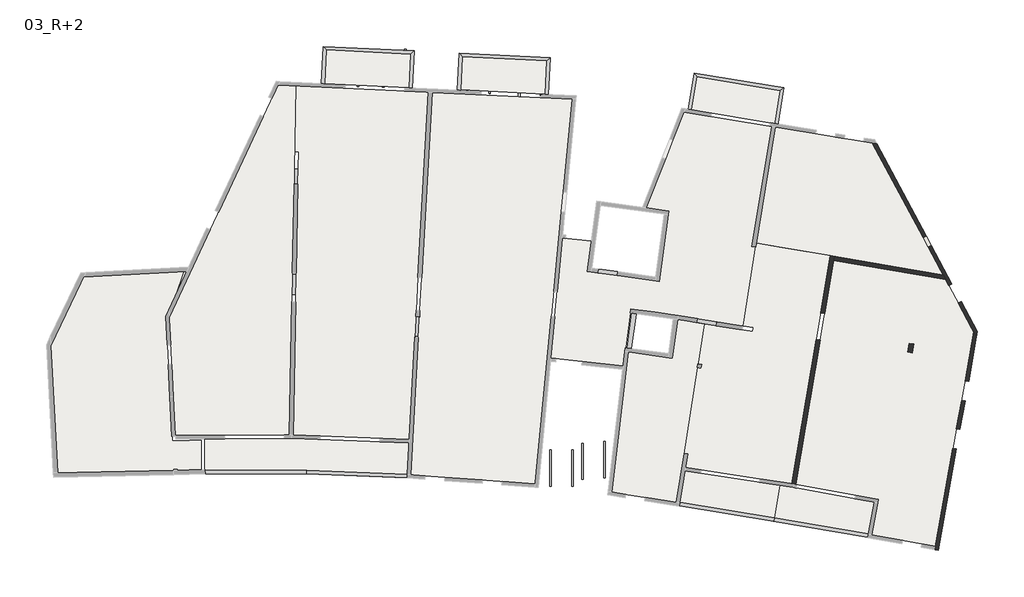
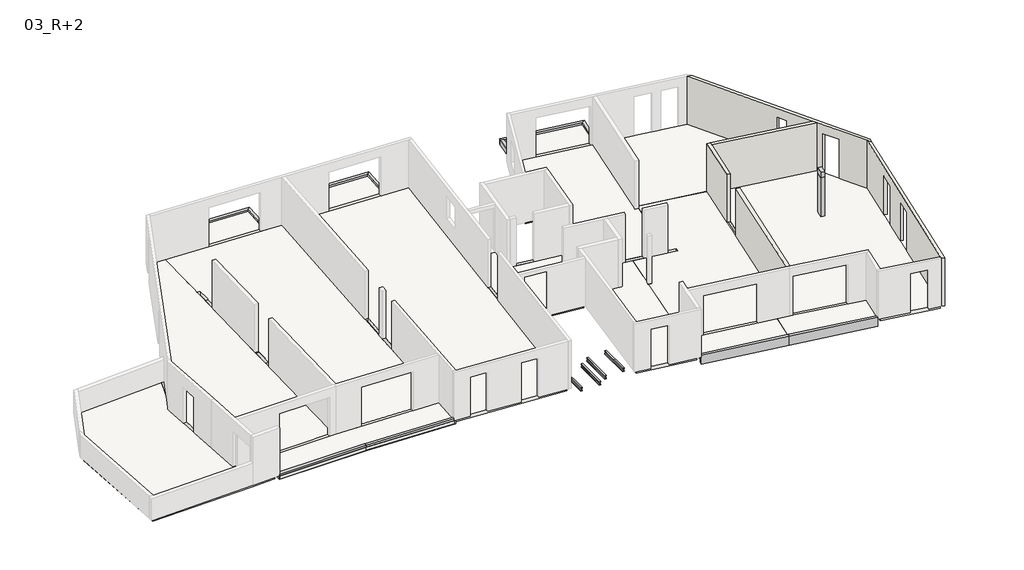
# One storey, part 2 of 2: 20 beams, 15 slabs, 12 proxies, 5 walls, 1 column.
"""IFC4 building model written with IfcOpenShell, lengths in millimetres."""

import ifcopenshell
import ifcopenshell.guid

model = None  # the IFC model being written
_history = None  # IfcOwnerHistory: only IFC2X3 demands one
_inside = {}  # id of a spatial element -> (the spatial element, [elements in it])
_under = {}  # id of a project, library or spatial element -> (it, [spatial elements below it])
_declared = {}  # id of a project -> (the project, [libraries it declares])
_typed = {}  # id of a type object -> (the type object, [elements of that type])
_made_of = {}  # id of a material, layer set ... -> (it, [elements and type objects made of it])


def new_model(schema):
    """Start an empty IFC model of exactly this schema.

    Asked for "IFC4X3", IfcOpenShell would pick the latest addendum, in which some entities
    have other attributes; the version numbers below select the first issue.
    IFC2X3 requires an IfcOwnerHistory on every rooted entity: one is made here for all.
    """
    global model, _history
    if schema == "IFC4X3":
        model = ifcopenshell.file(schema_version=(4, 3, 0, 0))
    else:
        model = ifcopenshell.file(schema=schema)
    _inside.clear()
    _under.clear()
    _declared.clear()
    _typed.clear()
    _made_of.clear()
    _history = None
    if model.schema == "IFC2X3":
        org = make("IfcOrganization", Name="unknown")
        user = make(
            "IfcPersonAndOrganization",
            ThePerson=make("IfcPerson", FamilyName="unknown"),
            TheOrganization=org,
        )
        app = make(
            "IfcApplication",
            ApplicationDeveloper=org,
            Version="unknown",
            ApplicationFullName="unknown",
            ApplicationIdentifier="unknown",
        )
        _history = make(
            "IfcOwnerHistory",
            OwningUser=user,
            OwningApplication=app,
            ChangeAction="ADDED",
            CreationDate=0,
        )
    return model


def make(cls, **values):
    """One entity of the class cls with the attributes given. An attribute that is None is left unset."""
    return model.create_entity(
        cls, **{name: value for name, value in values.items() if value is not None}
    )


def rooted(cls, **values):
    """An entity with a GlobalId (a new one), such as an element, a storey or a relation."""
    return make(cls, GlobalId=ifcopenshell.guid.new(), OwnerHistory=_history, **values)


def si_unit(unit_type, name, prefix=None):
    """IfcSIUnit, for example si_unit("LENGTHUNIT", "METRE", prefix="MILLI")."""
    return make("IfcSIUnit", UnitType=unit_type, Prefix=prefix, Name=name)


def assignment(units):
    """IfcUnitAssignment: the units of a project."""
    return None if units is None else make("IfcUnitAssignment", Units=units)


def point(xyz):
    """IfcCartesianPoint."""
    return None if xyz is None else make("IfcCartesianPoint", Coordinates=xyz)


def direction(xyz):
    """IfcDirection."""
    return None if xyz is None else make("IfcDirection", DirectionRatios=xyz)


def frame(location, z_axis=None, x_axis=None):
    """IfcAxis2Placement3D, a coordinate frame: its origin and axes. An axis left out is left unset."""
    return make(
        "IfcAxis2Placement3D",
        Location=point(location),
        Axis=direction(z_axis),
        RefDirection=direction(x_axis),
    )


def origin():
    """The frame at (0, 0, 0) with its axes left unset."""
    return frame((0.0, 0.0, 0.0))


def place(relative_to, where):
    """IfcLocalPlacement: puts the frame where relative to a parent placement (None: the world)."""
    return make(
        "IfcLocalPlacement", PlacementRelTo=relative_to, RelativePlacement=where
    )


def context(
    kind, dimensions, precision=None, world=None, true_north=None, identifier=None
):
    """IfcGeometricRepresentationContext, for example the 3D "Model" context."""
    return make(
        "IfcGeometricRepresentationContext",
        ContextIdentifier=identifier,
        ContextType=kind,
        CoordinateSpaceDimension=dimensions,
        Precision=precision,
        WorldCoordinateSystem=world,
        TrueNorth=true_north,
    )


def project(units=None, contexts=None):
    """IfcProject with its units and contexts."""
    return rooted(
        "IfcProject",
        Name="project",
        RepresentationContexts=contexts,
        UnitsInContext=assignment(units),
    )


def spatial(cls, under=None, at=None, **own):
    """A site, building, storey or space (cls), placed at a placement, below another one or the project."""
    s = rooted(cls, ObjectPlacement=at, **own)
    if under is not None:
        _under.setdefault(under.id(), (under, []))[1].append(s)
    return s


def polyline(points):
    """IfcPolyline through the points."""
    return make("IfcPolyline", Points=[point(p) for p in points])


def outline(outer, holes=None, kind="AREA"):
    """IfcArbitraryClosedProfileDef: a profile drawn as a closed curve; with holes, ...WithVoids."""
    if holes is None:
        return make("IfcArbitraryClosedProfileDef", ProfileType=kind, OuterCurve=outer)
    return make(
        "IfcArbitraryProfileDefWithVoids",
        ProfileType=kind,
        OuterCurve=outer,
        InnerCurves=holes,
    )


def extrude(swept, where, along, depth):
    """IfcExtrudedAreaSolid: the profile swept, set in the frame where, extruded along a direction by depth."""
    return make(
        "IfcExtrudedAreaSolid",
        SweptArea=swept,
        Position=where,
        ExtrudedDirection=direction(along),
        Depth=depth,
    )


def faces_of(points, faces, orient=None, outer=None):
    """IfcFace entities. A face is a list of loops; a loop is a list of indices into points, from 0.

    orient and outer hold one flag for each loop. By default every Orientation is true, the
    first loop of a face is its IfcFaceOuterBound and the others are IfcFaceBound.
    """
    made = []
    for i, loops in enumerate(faces):
        bounds = []
        for j, loop in enumerate(loops):
            is_outer = j == 0 if outer is None else outer[i][j]
            bounds.append(
                make(
                    "IfcFaceOuterBound" if is_outer else "IfcFaceBound",
                    Bound=make("IfcPolyLoop", Polygon=[points[k] for k in loop]),
                    Orientation=True if orient is None else orient[i][j],
                )
            )
        made.append(make("IfcFace", Bounds=bounds))
    return made


def faceted_brep(points, faces, orient=None, outer=None, voids=None):
    """IfcFacetedBrep: a solid bounded by flat faces; with voids (closed shells), ...WithVoids."""
    shared = [point(p) for p in points]
    hull = make("IfcClosedShell", CfsFaces=faces_of(shared, faces, orient, outer))
    if voids is None:
        return make("IfcFacetedBrep", Outer=hull)
    return make(
        "IfcFacetedBrepWithVoids",
        Outer=hull,
        Voids=[
            make(cls, CfsFaces=faces_of(shared, fs, o, b)) for cls, fs, o, b in voids
        ],
    )


def shape(context_of_items, identifier, shape_type, items):
    """IfcShapeRepresentation: the items that make up one representation, for example the "Body"."""
    return make(
        "IfcShapeRepresentation",
        ContextOfItems=context_of_items,
        RepresentationIdentifier=identifier,
        RepresentationType=shape_type,
        Items=items,
    )


def source(mapping_origin, context_of_items, identifier, shape_type, items):
    """IfcRepresentationMap: a shape defined once, which mapped items show again and again."""
    return make(
        "IfcRepresentationMap",
        MappingOrigin=mapping_origin,
        MappedRepresentation=shape(context_of_items, identifier, shape_type, items),
    )


def transform(
    local_origin,
    x_axis=None,
    y_axis=None,
    z_axis=None,
    scale=None,
    scale2=None,
    scale3=None,
    uniform=True,
):
    """IfcCartesianTransformationOperator3D, or its non-uniform kind. x_axis, y_axis, z_axis: its Axis1, 2, 3."""
    if uniform:
        return make(
            "IfcCartesianTransformationOperator3D",
            Axis1=direction(x_axis),
            Axis2=direction(y_axis),
            LocalOrigin=point(local_origin),
            Scale=scale,
            Axis3=direction(z_axis),
        )
    return make(
        "IfcCartesianTransformationOperator3DnonUniform",
        Axis1=direction(x_axis),
        Axis2=direction(y_axis),
        LocalOrigin=point(local_origin),
        Scale=scale,
        Axis3=direction(z_axis),
        Scale2=scale2,
        Scale3=scale3,
    )


def mapped(mapping_source, mapping_target):
    """IfcMappedItem: shows the shape of a source again, moved by a transform."""
    return make(
        "IfcMappedItem", MappingSource=mapping_source, MappingTarget=mapping_target
    )


def made_of(thing, what):
    """Note that an element or type object is made of a material, layer set ...; save() writes the relation."""
    if what is not None:
        _made_of.setdefault(what.id(), (what, []))[1].append(thing)
    return thing


def element(
    cls,
    number,
    at=None,
    inside=None,
    cuts=None,
    type_object=None,
    material=None,
    context=None,
    identifier="Body",
    shape_type=None,
    held_by="IfcProductDefinitionShape",
    body=None,
    shapes=None,
    **own,
):
    """One element of the class cls, such as IfcWall. Its Tag is "e" and its number.

    at: its placement. inside: the storey or other place that contains it. cuts: it is an
    opening in that element (IfcRelVoidsElement). A single representation is given by context,
    identifier, shape_type and body (its items); several are given by shapes. held_by: the class
    of the entity that holds the representations. save() writes the other relations.
    """
    e = rooted(cls, Tag="e%d" % number, ObjectPlacement=at, **own)
    if body is not None:
        shapes = [shape(context, identifier, shape_type, body)]
    if shapes is not None:
        e.Representation = make(held_by, Representations=shapes)
    if inside is not None:
        _inside.setdefault(inside.id(), (inside, []))[1].append(e)
    if cuts is not None:
        rooted(
            "IfcRelVoidsElement", RelatingBuildingElement=cuts, RelatedOpeningElement=e
        )
    if type_object is not None:
        _typed.setdefault(type_object.id(), (type_object, []))[1].append(e)
    return made_of(e, material)


def aggregate(whole, parts):
    """IfcRelAggregates: a whole, such as a stair, and the parts it consists of."""
    return rooted("IfcRelAggregates", RelatingObject=whole, RelatedObjects=parts)


def save(model, path):
    """Write the relations noted so far, then the file.

    IfcRelAggregates (storeys below a building ...), IfcRelContainedInSpatialStructure (elements
    in a storey), IfcRelDefinesByType, IfcRelAssociatesMaterial and IfcRelDeclares: one each for
    every whole, place, type object, material and project.
    """
    for whole, parts in _under.values():
        aggregate(whole, parts)
    for where, things in _inside.values():
        rooted(
            "IfcRelContainedInSpatialStructure",
            RelatedElements=things,
            RelatingStructure=where,
        )
    for kind, things in _typed.values():
        rooted("IfcRelDefinesByType", RelatedObjects=things, RelatingType=kind)
    for what, things in _made_of.values():
        rooted("IfcRelAssociatesMaterial", RelatedObjects=things, RelatingMaterial=what)
    for by, libraries in _declared.values():
        rooted("IfcRelDeclares", RelatingContext=by, RelatedDefinitions=libraries)
    model.write(path)


def pm20_165_69542f47(model_context):
    return source(origin(), model_context, "Body", "SweptSolid", [
        extrude(outline(polyline([(-40.0, 0.0), (-40.0, 40.0), (-13.5, 40.0), (-13.5, 160.0), (-40.0, 160.0), (-40.0, 200.0), (40.0, 200.0), (40.0, 160.0), (13.5, 160.0), (13.5, 40.0), (40.0, 40.0), (40.0, 0.0), (-40.0, 0.0)])), frame((-930.6475729, 0.0, 0.0), z_axis=(1.0, 0.0, 0.0), x_axis=(0.0, 1.0, 0.0)), (0.0, 0.0, 1.0), 1650.0),
    ])


model = new_model("IFC4")

# Units and contexts
model_context = context("Model", 3, world=origin())
ifc_project = project(units=[si_unit("LENGTHUNIT", "METRE", prefix="MILLI")], contexts=[model_context])

# Site, building, storey
site = spatial("IfcSite", under=ifc_project)
building = spatial("IfcBuilding", under=site)
storey = spatial("IfcBuildingStorey", under=building, Name="03_R+2", Elevation=27140.0)

# Beams
placement = place(None, origin())
element("IfcBeam", 1, ObjectType="Poutre_Rect_2013_JBE : 15x30ht", at=placement, inside=storey, context=model_context, shape_type="Brep", body=[
    faceted_brep([(-4897.631373, 18555.1356626, 26940.0), (-4897.631373, 18555.1356626, 27240.0), (-4972.2199923, 17017.007007, 27240.0), (-4972.2196113, 17017.0148649, 26940.0), (-5040.1898883, 18712.2250312, 26940.0), (-5122.0435589, 17024.2801753, 26940.0), (-5040.1898883, 18712.2250312, 27240.0), (-5122.0439399, 17024.2723174, 27240.0)], [[[0, 1, 2, 3]], [[4, 0, 3, 5]], [[6, 4, 5, 7]], [[1, 6, 7, 2]], [[1, 0, 4, 6]], [[2, 7, 5, 3]]]),
])
element("IfcBeam", 2, ObjectType="Poutre_Rect_2013_JBE : 15x30ht", at=placement, inside=storey, context=model_context, shape_type="SweptSolid", body=[
    extrude(outline(polyline([(-1056.1906041, 18368.8523097), (-4897.631373, 18555.1356626), (-5040.1898883, 18712.2250312), (-899.0967804, 18511.4106089), (-1056.1906041, 18368.8523097)])), frame((0.0, 0.0, 26940.0), z_axis=(0.0, 0.0, 1.0), x_axis=(1.0, 0.0, 0.0)), (0.0, 0.0, 1.0), 300.0),
])
element("IfcBeam", 3, ObjectType="Poutre_Rect_2013_JBE : 15x30ht", at=placement, inside=storey, context=model_context, shape_type="Brep", body=[
    faceted_brep([(-1056.1906041, 18368.8523097, 27240.0), (-1056.1906041, 18368.8523097, 26940.0), (-1130.8244336, 16830.7367116, 26940.0), (-1130.8248149, 16830.7288537, 27240.0), (-899.0967804, 18511.4106089, 26940.0), (-981.000486, 16823.4714012, 26940.0), (-899.0967804, 18511.4106089, 27240.0), (-981.0008673, 16823.4635433, 27240.0)], [[[0, 1, 2, 3]], [[1, 4, 5, 2]], [[4, 6, 7, 5]], [[6, 0, 3, 7]], [[0, 6, 4, 1]], [[2, 5, 7, 3]]]),
])
element("IfcBeam", 4, ObjectType="Poutre_Rect_2013_JBE : 15x30ht", at=placement, inside=storey, context=model_context, shape_type="Brep", body=[
    faceted_brep([(1214.3819126, 16717.0043452, 27240.0), (1214.3822936, 16717.0122032, 26940.0), (1288.9684184, 18255.127111, 26940.0), (1288.9684184, 18255.127111, 27240.0), (1064.558346, 16724.2775135, 26940.0), (1146.4097169, 18412.2163106, 26940.0), (1064.557965, 16724.2696556, 27240.0), (1146.4097169, 18412.2163106, 27240.0)], [[[0, 1, 2, 3]], [[2, 1, 4, 5]], [[5, 4, 6, 7]], [[3, 7, 6, 0]], [[0, 6, 4, 1]], [[3, 2, 5, 7]]]),
])
element("IfcBeam", 5, ObjectType="Poutre_Rect_2013_JBE : 15x30ht", at=placement, inside=storey, context=model_context, shape_type="Brep", body=[
    faceted_brep([(5130.3850018, 18068.849496, 27240.0), (1288.9684184, 18255.127111, 27240.0), (1288.9684184, 18255.127111, 27140.0), (1288.9684184, 18255.127111, 26940.0), (5130.3850018, 18068.849496, 26940.0), (5130.3850018, 18068.849496, 27140.0), (1146.4097169, 18412.2163106, 26940.0), (5287.4786545, 18211.4079815, 26940.0), (1146.4097169, 18412.2163106, 27240.0), (5287.4786545, 18211.4079815, 27240.0)], [[[0, 1, 2, 3, 4, 5]], [[4, 3, 6, 7]], [[7, 6, 8, 9]], [[1, 0, 9, 8]], [[1, 8, 6, 3, 2]], [[4, 7, 9, 0, 5]]]),
])
element("IfcBeam", 6, ObjectType="Poutre_Rect_2013_JBE : 15x30ht", at=placement, inside=storey, context=model_context, shape_type="Brep", body=[
    faceted_brep([(5130.3850018, 18068.849496, 27240.0), (5130.3850018, 18068.849496, 26940.0), (5055.7530853, 16530.7352324, 26940.0), (5055.752704, 16530.7273744, 27240.0), (5287.4786545, 18211.4079815, 26940.0), (5205.5770329, 16523.469922, 26940.0), (5287.4786545, 18211.4079815, 27240.0), (5205.5766516, 16523.462064, 27240.0)], [[[0, 1, 2, 3]], [[1, 4, 5, 2]], [[4, 6, 7, 5]], [[6, 0, 3, 7]], [[0, 6, 4, 1]], [[2, 5, 7, 3]]]),
])
element("IfcBeam", 7, ObjectType="Poutre_Rect_2013_JBE : 15x30ht", at=placement, inside=storey, context=model_context, shape_type="Brep", body=[
    faceted_brep([(11964.1691128, 17329.8182098, 26940.0), (11964.1691128, 17329.8182098, 27240.0), (11718.0041077, 15829.8741583, 27240.0), (11718.0041077, 15829.8741583, 27140.0), (11718.0644939, 15830.2421061, 27140.0), (11718.0644939, 15830.2421061, 26940.0), (11840.4417038, 17502.1305084, 26940.0), (11570.0538702, 15854.5907922, 26940.0), (11840.4417038, 17502.1305084, 27240.0), (11570.0538702, 15854.5907922, 27140.0), (11569.9841349, 15854.165878, 27140.0), (11569.9841349, 15854.165878, 27240.0)], [[[0, 1, 2, 3, 4, 5]], [[6, 0, 5, 7]], [[8, 6, 7, 9, 10, 11]], [[1, 8, 11, 2]], [[1, 0, 6, 8]], [[4, 9, 7, 5]], [[9, 4, 3, 10]], [[3, 2, 11, 10]]]),
])
element("IfcBeam", 8, ObjectType="Poutre_Rect_2013_JBE : 15x30ht", at=placement, inside=storey, context=model_context, shape_type="SweptSolid", body=[
    extrude(outline(polyline([(15759.2934094, 16706.9771173), (11964.1691128, 17329.8182098), (11840.4417038, 17502.1305084), (15931.6453934, 16830.6980133), (15759.2934094, 16706.9771173)])), frame((0.0, 0.0, 26940.0), z_axis=(0.0, 0.0, 1.0), x_axis=(1.0, 0.0, 0.0)), (0.0, 0.0, 1.0), 300.0),
])
element("IfcBeam", 9, ObjectType="Poutre_Rect_2013_JBE : 15x30ht", at=placement, inside=storey, context=model_context, shape_type="Brep", body=[
    faceted_brep([(15499.5726476, 15127.0847695, 27240.0), (15759.2934094, 16706.9771173, 27240.0), (15759.2934094, 16706.9771173, 26940.0), (15512.5497805, 15206.0252161, 26940.0), (15512.5497805, 15206.0252161, 27140.0), (15499.5726476, 15127.0847695, 27140.0), (15931.6453934, 16830.6980133, 26940.0), (15660.5603944, 15181.6765316, 26940.0), (15931.6453934, 16830.6980133, 27240.0), (15647.5832616, 15102.736085, 27240.0), (15647.5832616, 15102.736085, 27140.0), (15660.5603944, 15181.6765316, 27140.0)], [[[0, 1, 2, 3, 4, 5]], [[2, 6, 7, 3]], [[8, 9, 10, 11, 7, 6]], [[1, 0, 9, 8]], [[9, 0, 5, 10]], [[1, 8, 6, 2]], [[11, 4, 3, 7]], [[4, 11, 10, 5]]]),
])
element("IfcBeam", 10, ObjectType="Poutre_Rect_2013_JBE : 16x30ht", at=placement, inside=storey, context=model_context, shape_type="Brep", body=[
    faceted_brep([(-5803.4780265, -746.6001831, 27240.0), (-5803.4780265, -746.6001831, 26940.0), (-5803.9219702, -586.600799, 26940.0), (-5803.9219702, -586.600799, 27240.0), (-10420.2434385, -599.4095167, 27240.0), (-10420.2434385, -599.4095167, 26940.0), (-10419.7994948, -759.4089008, 26940.0), (-10419.7994948, -759.4089008, 27140.0), (-10419.9667573, -699.1266916, 27140.0), (-10419.9667573, -699.1266916, 27240.0), (-10418.569119, -759.4054869, 27240.0), (-10418.569119, -759.4054869, 27140.0)], [[[0, 1, 2, 3]], [[4, 5, 6, 7, 8, 9]], [[1, 0, 10, 11, 7, 6]], [[2, 1, 6, 5]], [[3, 2, 5, 4]], [[0, 3, 4, 9, 10]], [[11, 8, 7]], [[8, 11, 10, 9]]]),
])
element("IfcBeam", 11, ObjectType="Poutre_Rect_2013_JBE : 16x30ht", at=placement, inside=storey, context=model_context, shape_type="Brep", body=[
    faceted_brep([(-5799.4844303, -586.9078322, 26940.0), (-5806.3394704, -746.760916, 26940.0), (-5806.3394704, -746.760916, 26970.0), (-5799.4844303, -586.9078322, 26970.0), (-1145.1758194, -946.647357, 27240.0), (-5806.3394704, -746.760916, 27240.0), (-5806.3394704, -746.760916, 27140.0), (-1226.7011899, -943.1512738, 27140.0), (-1226.7011899, -943.1512738, 26970.0), (-1145.1758194, -946.647357, 26940.0), (-1136.2512929, -786.8830197, 26940.0), (-1217.7766672, -783.3869363, 27140.0), (-5799.4844303, -586.9078322, 27140.0), (-5799.4844303, -586.9078322, 27240.0), (-1217.7772945, -783.3869094, 27240.0), (-1136.3839799, -789.258344, 27240.0), (-1217.7766672, -783.3869363, 26970.0), (-1136.2512929, -786.8830197, 27140.0), (-1136.3839799, -789.258344, 27140.0)], [[[0, 1, 2, 3]], [[4, 5, 6, 7, 8, 2, 1, 9]], [[1, 0, 10, 9]], [[11, 12, 13, 14]], [[13, 5, 4, 15, 14]], [[3, 2, 8, 16]], [[6, 12, 11, 7]], [[5, 13, 12, 6]], [[4, 9, 10, 17, 18, 15]], [[16, 8, 7, 11]], [[11, 18, 17]], [[18, 11, 14, 15]], [[10, 0, 3, 16, 11, 17]]]),
])
element("IfcBeam", 12, ObjectType="Poutre_Rect_2013_JBE : 16x50ht", at=placement, inside=storey, context=model_context, shape_type="Brep", body=[
    faceted_brep([(15459.4189333, -2908.7015491, 27240.0), (15459.4189333, -2908.7015491, 26740.0), (15485.1607823, -2750.7858842, 26740.0), (15485.1607823, -2750.7858842, 26940.0), (15485.1607823, -2750.7858842, 27140.0), (15485.1607823, -2750.7858842, 27240.0), (11175.9565238, -2210.453895, 27240.0), (11201.6983728, -2052.5382301, 27240.0), (11201.6983728, -2052.5382301, 27140.0), (11201.6983728, -2052.5382301, 26940.0), (11201.6983728, -2052.5382301, 26740.0), (11175.9565238, -2210.453895, 26740.0)], [[[0, 1, 2, 3, 4, 5]], [[6, 7, 8, 9, 10, 11]], [[1, 0, 6, 11]], [[2, 1, 11, 10]], [[2, 10, 9, 8, 7, 5, 4, 3]], [[0, 5, 7, 6]]]),
])
element("IfcBeam", 13, ObjectType="Poutre_Rect_2013_JBE : 16x50ht", at=placement, inside=storey, context=model_context, shape_type="Brep", body=[
    faceted_brep([(15453.0988869, -2911.9089071, 27240.0), (15479.8730221, -2754.1649827, 27240.0), (15479.8730221, -2754.1649827, 26740.0), (15453.0988869, -2911.9089071, 26740.0), (19748.9370478, -3641.0485706, 26740.0), (19748.9373721, -3641.0486257, 27240.0), (19777.1190437, -3483.5436047, 26740.0), (19777.119368, -3483.5436598, 27240.0)], [[[0, 1, 2, 3]], [[0, 3, 4, 5]], [[3, 2, 6, 4]], [[2, 1, 7, 6]], [[1, 0, 5, 7]], [[5, 4, 6, 7]]]),
])
element("IfcBeam", 14, ObjectType="Poutre_Rect_2013_JBE : 18x65ht", at=placement, inside=storey, context=model_context, shape_type="SweptSolid", body=[
    extrude(outline(polyline([(-6448.1406853, 8323.1455923), (-6268.1713868, 8319.8211977), (-6284.7933598, 7419.9747053), (-6287.1265481, 7420.0178039), (-6287.1079443, 7421.0249393), (-6464.7440545, 7424.3062352), (-6448.1406853, 8323.1455923)])), frame((0.0, 0.0, 26490.0), z_axis=(0.0, 0.0, 1.0), x_axis=(1.0, 0.0, 0.0)), (0.0, 0.0, 1.0), 650.0),
])
element("IfcBeam", 15, ObjectType="Poutre_Rect_2013_JBE : 18x65ht", at=placement, inside=storey, context=model_context, shape_type="SweptSolid", body=[
    extrude(outline(polyline([(-6426.3747768, 9498.1774413), (-6246.4056957, 9494.8413006), (-6263.6424224, 8565.0010481), (-6268.8673681, 8565.0979045), (-6268.8485478, 8566.141094), (-6443.5937727, 8569.2936843), (-6426.3747768, 9498.1774413)])), frame((0.0, 0.0, 26490.0), z_axis=(0.0, 0.0, 1.0), x_axis=(1.0, 0.0, 0.0)), (0.0, 0.0, 1.0), 650.0),
])
element("IfcBeam", 16, ObjectType="Poutre_Rect_2013_JBE : 18x65ht", at=placement, inside=storey, context=model_context, shape_type="Brep", body=[
    faceted_brep([(-6181.941546, 13132.2332006, 27140.0), (-6181.941546, 13132.2332006, 26490.0), (-6361.9106261, 13135.5693993, 26490.0), (-6361.9106261, 13135.5693993, 26940.0), (-6358.9777674, 13135.515031, 26940.0), (-6358.9777674, 13135.515031, 27140.0), (-6379.1476524, 12205.7291523, 26490.0), (-6199.1785723, 12202.3929536, 26490.0), (-6199.1785723, 12202.3929536, 27140.0), (-6376.2659097, 12205.6757316, 27140.0), (-6376.2659097, 12205.6757316, 26940.0), (-6379.1476524, 12205.7291523, 26940.0), (-6371.7775076, 12448.0925223, 27140.0), (-6371.7775076, 12448.0925223, 26940.0)], [[[0, 1, 2, 3, 4, 5]], [[6, 7, 8, 9, 10, 11]], [[1, 0, 8, 7]], [[2, 1, 7, 6]], [[2, 6, 11, 3]], [[8, 0, 5, 12, 9]], [[10, 13, 4, 3, 11]], [[13, 12, 5, 4]], [[12, 13, 10, 9]]]),
])
element("IfcBeam", 17, ObjectType="Poutre_Rect_2013_JBE : 18x65ht", at=placement, inside=storey, context=model_context, shape_type="SweptSolid", body=[
    extrude(outline(polyline([(-832.3333182, 6446.6693647), (-652.5316313, 6438.2222711), (-705.5165399, 5310.4052478), (-715.5023879, 5310.8743835), (-704.4420316, 5508.8737408), (-864.192982, 5517.7975195), (-875.3323787, 5318.3832057), (-885.3182268, 5318.8523414), (-832.3333182, 6446.6693647)])), frame((0.0, 0.0, 26490.0), z_axis=(0.0, 0.0, 1.0), x_axis=(1.0, 0.0, 0.0)), (0.0, 0.0, 1.0), 650.0),
])
element("IfcBeam", 18, ObjectType="Poutre_Rect_2013_JBE : 18x65ht", at=placement, inside=storey, context=model_context, shape_type="Brep", body=[
    faceted_brep([(8345.5948256, 8275.1098795, 26490.0), (8369.8909598, 8453.4626138, 26490.0), (8369.8909598, 8453.4626138, 27140.0), (8345.5948256, 8275.1098795, 27140.0), (8345.5948256, 8275.1098795, 26940.0), (7453.8500522, 8396.5879761, 27140.0), (7478.1461864, 8574.9407105, 27140.0), (7478.1461864, 8574.9407105, 26490.0), (7453.8500522, 8396.5879761, 26490.0), (7453.8500522, 8396.5879761, 26940.0)], [[[0, 1, 2, 3, 4]], [[5, 6, 7, 8, 9]], [[3, 5, 9, 8, 0, 4]], [[1, 0, 8, 7]], [[2, 1, 7, 6]], [[3, 2, 6, 5]]]),
])
element("IfcBeam", 19, ObjectType="Poutre_Rect_2013_JBE : 18x65ht", at=placement, inside=storey, context=model_context, shape_type="SweptSolid", body=[
    extrude(outline(polyline([(11969.2121056, 6133.2842204), (11997.9253892, 6310.979317), (12886.0162997, 6167.4750409), (12857.3030161, 5989.7799443), (11969.2121056, 6133.2842204)])), frame((0.0, 0.0, 26490.0), z_axis=(0.0, 0.0, 1.0), x_axis=(1.0, 0.0, 0.0)), (0.0, 0.0, 1.0), 650.0),
])
element("IfcBeam", 20, ObjectType="Poutre_Rect_2013_JBE : 20x60ht", at=placement, inside=storey, context=model_context, shape_type="SweptSolid", body=[
    extrude(outline(polyline([(9002.4532006, 6564.8745744), (9200.6229555, 6537.8792371), (8984.6618757, 4952.5330799), (8786.4921208, 4979.5284172), (9002.4532006, 6564.8745744)])), frame((0.0, 0.0, 26540.0), z_axis=(0.0, 0.0, 1.0), x_axis=(1.0, 0.0, 0.0)), (0.0, 0.0, 1.0), 600.0),
])

# Proxies
pm20_165_shape = pm20_165_69542f47(model_context)
element("IfcBuildingElementProxy", 21, Name="MILLS_POUTRELLES_M20 : PM20-165", ObjectType="MILLS_POUTRELLES_M20 : PM20-165", at=placement, inside=storey, context=model_context, shape_type="MappedRepresentation", body=[
    mapped(pm20_165_shape, transform((5306.2731276, -391.9958397, 26740.0), x_axis=(-0.0011999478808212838, 0.9999992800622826, 0.0), y_axis=(-0.9999992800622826, -0.0011999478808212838, 0.0), z_axis=(0.0, 0.0, 1.0))),
])
element("IfcBuildingElementProxy", 22, Name="MILLS_POUTRELLES_M20 : PM20-165", ObjectType="MILLS_POUTRELLES_M20 : PM20-165", at=placement, inside=storey, context=model_context, shape_type="MappedRepresentation", body=[
    mapped(pm20_165_shape, transform((6306.7846196, -391.9958397, 26740.0), x_axis=(-0.0011999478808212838, 0.9999992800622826, 0.0), y_axis=(-0.9999992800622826, -0.0011999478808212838, 0.0), z_axis=(0.0, 0.0, 1.0))),
])
element("IfcBuildingElementProxy", 23, Name="MILLS_POUTRELLES_M20 : PM20-165", ObjectType="MILLS_POUTRELLES_M20 : PM20-165", at=placement, inside=storey, context=model_context, shape_type="MappedRepresentation", body=[
    mapped(pm20_165_shape, transform((6763.1638812, -84.424542, 26740.0), x_axis=(-0.0011999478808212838, 0.9999992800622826, 0.0), y_axis=(-0.9999992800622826, -0.0011999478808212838, 0.0), z_axis=(0.0, 0.0, 1.0))),
])
element("IfcBuildingElementProxy", 24, Name="MILLS_POUTRELLES_M20 : PM20-165", ObjectType="MILLS_POUTRELLES_M20 : PM20-165", at=placement, inside=storey, context=model_context, shape_type="MappedRepresentation", body=[
    mapped(pm20_165_shape, transform((7764.1868651, 3.1536211, 26740.0), x_axis=(-0.0011999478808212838, 0.9999992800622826, 0.0), y_axis=(-0.9999992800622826, -0.0011999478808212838, 0.0), z_axis=(0.0, 0.0, 1.0))),
])
element("IfcBuildingElementProxy", 25, Name="MILLS_POUTRELLES_M20 : PM20-165", ObjectType="MILLS_POUTRELLES_M20 : PM20-165", at=placement, inside=storey, context=model_context, shape_type="MappedRepresentation", body=[
    mapped(pm20_165_shape, transform((-4463.1049736, 17804.6069063, 23840.0), x_axis=(-0.0011999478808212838, 0.9999992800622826, 0.0), y_axis=(-0.9999992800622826, -0.0011999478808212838, 0.0), z_axis=(0.0, 0.0, 1.0))),
])
element("IfcBuildingElementProxy", 26, Name="MILLS_POUTRELLES_M20 : PM20-165", ObjectType="MILLS_POUTRELLES_M20 : PM20-165", at=placement, inside=storey, context=model_context, shape_type="MappedRepresentation", body=[
    mapped(pm20_165_shape, transform((-3462.5934816, 17804.6069063, 23840.0), x_axis=(-0.0011999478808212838, 0.9999992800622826, 0.0), y_axis=(-0.9999992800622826, -0.0011999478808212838, 0.0), z_axis=(0.0, 0.0, 1.0))),
])
element("IfcBuildingElementProxy", 27, Name="MILLS_POUTRELLES_M20 : PM20-165", ObjectType="MILLS_POUTRELLES_M20 : PM20-165", at=placement, inside=storey, context=model_context, shape_type="MappedRepresentation", body=[
    mapped(pm20_165_shape, transform((-2307.2046268, 17789.1653839, 23840.0), x_axis=(-0.0011999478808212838, 0.9999992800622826, 0.0), y_axis=(-0.9999992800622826, -0.0011999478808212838, 0.0), z_axis=(0.0, 0.0, 1.0))),
])
element("IfcBuildingElementProxy", 28, Name="MILLS_POUTRELLES_M20 : PM20-165", ObjectType="MILLS_POUTRELLES_M20 : PM20-165", at=placement, inside=storey, context=model_context, shape_type="MappedRepresentation", body=[
    mapped(pm20_165_shape, transform((-1306.1816429, 17876.7435469, 23840.0), x_axis=(-0.0011999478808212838, 0.9999992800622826, 0.0), y_axis=(-0.9999992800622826, -0.0011999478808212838, 0.0), z_axis=(0.0, 0.0, 1.0))),
])
element("IfcBuildingElementProxy", 29, Name="MILLS_POUTRELLES_M20 : PM20-165", ObjectType="MILLS_POUTRELLES_M20 : PM20-165", at=placement, inside=storey, context=model_context, shape_type="MappedRepresentation", body=[
    mapped(pm20_165_shape, transform((1583.4892503, 17484.030063, 23840.0), x_axis=(0.06855939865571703, 0.9976470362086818, 0.0), y_axis=(-0.9976470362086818, 0.06855939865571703, 0.0), z_axis=(0.0, 0.0, 1.0))),
])
element("IfcBuildingElementProxy", 30, Name="MILLS_POUTRELLES_M20 : PM20-165", ObjectType="MILLS_POUTRELLES_M20 : PM20-165", at=placement, inside=storey, context=model_context, shape_type="MappedRepresentation", body=[
    mapped(pm20_165_shape, transform((2588.1829364, 17501.5670566, 23840.0), x_axis=(0.06855939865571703, 0.9976470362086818, 0.0), y_axis=(-0.9976470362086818, 0.06855939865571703, 0.0), z_axis=(0.0, 0.0, 1.0))),
])
element("IfcBuildingElementProxy", 31, Name="MILLS_POUTRELLES_M20 : PM20-165", ObjectType="MILLS_POUTRELLES_M20 : PM20-165", at=placement, inside=storey, context=model_context, shape_type="MappedRepresentation", body=[
    mapped(pm20_165_shape, transform((3880.4550781, 17317.9261327, 23840.0), x_axis=(-0.0011999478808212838, 0.9999992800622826, 0.0), y_axis=(-0.9999992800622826, -0.0011999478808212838, 0.0), z_axis=(0.0, 0.0, 1.0))),
])
element("IfcBuildingElementProxy", 32, Name="MILLS_POUTRELLES_M20 : PM20-165", ObjectType="MILLS_POUTRELLES_M20 : PM20-165", at=placement, inside=storey, context=model_context, shape_type="MappedRepresentation", body=[
    mapped(pm20_165_shape, transform((4881.478062, 17405.5042957, 23840.0), x_axis=(-0.0011999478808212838, 0.9999992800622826, 0.0), y_axis=(-0.9999992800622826, -0.0011999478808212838, 0.0), z_axis=(0.0, 0.0, 1.0))),
])

# Column
element("IfcColumn", 33, ObjectType="Pot_Rect_2013_JBE : 200x400", at=placement, inside=storey, context=model_context, shape_type="SweptSolid", body=[
    extrude(outline(polyline([(21643.4057905, 5191.5592403), (21840.2845052, 5156.3630517), (21769.892128, 4762.6056223), (21573.0134132, 4797.8018109), (21643.4057905, 5191.5592403)])), frame((0.0, 0.0, 29340.0), z_axis=(0.0, 0.0, 1.0), x_axis=(1.0, 0.0, 0.0)), (0.0, 0.0, 1.0), 300.0),
    extrude(outline(polyline([(21769.892128, 4762.6056223), (21573.0134132, 4797.8018109), (21643.4057905, 5191.5592403), (21840.2845052, 5156.3630517), (21769.892128, 4762.6056223)])), frame((0.0, 0.0, 27140.0), z_axis=(0.0, 0.0, 1.0), x_axis=(1.0, 0.0, 0.0)), (0.0, 0.0, 1.0), 2200.0),
])

# Slabs
element("IfcSlab", 34, ObjectType="Dalle Béton - 17 cm", at=placement, inside=storey, context=model_context, shape_type="Brep", body=[
    faceted_brep([(-1226.7011899, -943.1512738, 26970.0), (-5806.3394704, -746.760916, 26970.0), (-5809.6859434, -746.617408, 26970.0), (-10432.539406, -759.4442497, 26970.0), (-10432.539406, 834.9742692, 26970.0), (-6498.1951113, 856.6670743, 26970.0), (-1137.7731708, 648.8135224, 26970.0), (-1217.7766672, -783.3869363, 26970.0), (-1226.7011899, -943.1512738, 27140.0), (-1217.7766672, -783.3869363, 27140.0), (-1137.7731708, 648.8135224, 27140.0), (-6498.1951113, 856.6670743, 27140.0), (-10432.539406, 834.9742692, 27140.0), (-10432.539406, -759.4442497, 27140.0), (-5809.6859434, -746.617408, 27140.0), (-5806.3394704, -746.760916, 27140.0)], [[[0, 1, 2, 3, 4, 5, 6, 7]], [[8, 9, 10, 11, 12, 13, 14, 15]], [[6, 5, 11, 10]], [[0, 7, 6, 10, 9, 8]], [[2, 1, 0, 8, 15, 14]], [[3, 2, 14, 13]], [[4, 3, 13, 12]], [[5, 4, 12, 11]]]),
])
element("IfcSlab", 35, ObjectType="Dalle Béton - 20 cm", at=placement, inside=storey, context=model_context, shape_type="SweptSolid", body=[
    extrude(outline(polyline([(-1056.193164, 18368.8639771), (-1130.7806222, 16830.7345871), (-4972.1879531, 17017.0133297), (-4897.6084808, 18555.1252749), (-1056.193164, 18368.8639771)])), frame((0.0, 0.0, 26940.0), z_axis=(0.0, 0.0, 1.0), x_axis=(1.0, 0.0, 0.0)), (0.0, 0.0, 1.0), 200.0),
])
element("IfcSlab", 36, ObjectType="Dalle Béton - 20 cm", at=placement, inside=storey, context=model_context, shape_type="SweptSolid", body=[
    extrude(outline(polyline([(5130.4067527, 18068.8484412), (5056.7223398, 16550.2615989), (1215.3292667, 16736.538074), (1288.9685445, 18255.1271049), (5130.4067527, 18068.8484412)])), frame((0.0, 0.0, 26940.0), z_axis=(0.0, 0.0, 1.0), x_axis=(1.0, 0.0, 0.0)), (0.0, 0.0, 1.0), 200.0),
])
element("IfcSlab", 37, ObjectType="Dalle Béton - 20 cm", at=placement, inside=storey, context=model_context, shape_type="SweptSolid", body=[
    extrude(outline(polyline([(15759.5740765, 16706.9249804), (15512.8314024, 15205.9788875), (11718.0653476, 15830.2419656), (11964.1689957, 17329.8121542), (15759.5740765, 16706.9249804)])), frame((0.0, 0.0, 26940.0), z_axis=(0.0, 0.0, 1.0), x_axis=(1.0, 0.0, 0.0)), (0.0, 0.0, 1.0), 200.0),
])
element("IfcSlab", 38, ObjectType="Dalle Béton - 20 cm", at=placement, inside=storey, context=model_context, shape_type="SweptSolid", body=[
    extrude(outline(polyline([(15741.121329, -1285.5437151), (15491.9754693, -2751.896747), (11196.8891609, -2051.75428), (11422.4002935, -610.0228456), (15741.121329, -1285.5437151)])), frame((0.0, 0.0, 26940.0), z_axis=(0.0, 0.0, 1.0), x_axis=(1.0, 0.0, 0.0)), (0.0, 0.0, 1.0), 200.0),
])
element("IfcSlab", 39, ObjectType="Dalle Béton - 20 cm", at=placement, inside=storey, context=model_context, shape_type="SweptSolid", body=[
    extrude(outline(polyline([(20033.8675103, -2048.6147707), (19779.8706654, -3486.9270708), (15491.9229554, -2752.2061409), (15747.1710611, -1251.3235198), (20033.8675103, -2048.6147707)])), frame((0.0, 0.0, 26940.0), z_axis=(0.0, 0.0, 1.0), x_axis=(1.0, 0.0, 0.0)), (0.0, 0.0, 1.0), 200.0),
])
element("IfcSlab", 40, ObjectType="Dalle Béton - 20 cm", at=placement, inside=storey, context=model_context, shape_type="SweptSolid", body=[
    extrude(outline(polyline([(20219.4818281, -1919.6616174), (16458.2776864, -1237.6766251), (18191.1842297, 8972.0169272), (23278.1726554, 8114.9371411), (24569.997824, 5702.6105611), (22823.3072103, -4061.1146378), (19930.0520233, -3537.2415694), (20219.4818281, -1919.6616174)])), frame((0.0, 0.0, 26940.0), z_axis=(0.0, 0.0, 1.0), x_axis=(1.0, 0.0, 0.0)), (0.0, 0.0, 1.0), 200.0),
])
element("IfcSlab", 41, ObjectType="Dalle Béton - 20 cm", at=placement, inside=storey, context=model_context, shape_type="SweptSolid", body=[
    extrude(outline(polyline([(18047.2385511, 9199.5139349), (14675.7896213, 9754.5083851), (15544.5179622, 15038.6157131), (19959.4013559, 14312.3394006), (23179.6497293, 8298.9167377), (18047.2385511, 9199.5139349)])), frame((0.0, 0.0, 26940.0), z_axis=(0.0, 0.0, 1.0), x_axis=(1.0, 0.0, 0.0)), (0.0, 0.0, 1.0), 200.0),
])
element("IfcSlab", 42, ObjectType="Dalle Béton - 20 cm", at=placement, inside=storey, context=model_context, shape_type="Brep", body=[
    faceted_brep([(11376.0899337, 15724.3485553, 26940.0), (15365.4981374, 15068.0656094, 26940.0), (14467.4834422, 9609.2201301, 26940.0), (14645.0886774, 9579.9561515, 26940.0), (14058.0682179, 5978.0839953, 26940.0), (10086.4253929, 6619.8513208, 26940.0), (10063.347549, 6623.0129103, 26940.0), (8964.4942988, 6751.7078692, 26940.0), (8611.7999148, 4159.7887923, 26940.0), (5311.2020038, 4533.6943094, 26940.0), (5839.9618557, 9982.2198048, 26940.0), (7167.9271797, 9851.5647511, 26940.0), (6977.5122332, 8461.4771836, 26940.0), (10251.9959002, 8015.4100406, 26940.0), (10686.8075445, 11224.717103, 26940.0), (9657.5448369, 11365.7056219, 26940.0), (11376.0899337, 15724.3485553, 27140.0), (9657.5448369, 11365.7056219, 27140.0), (10686.8075445, 11224.717103, 27140.0), (10251.9959002, 8015.4100406, 27140.0), (8345.5948256, 8275.1098795, 27140.0), (7453.8500522, 8396.5879761, 27140.0), (6977.5122332, 8461.4771836, 27140.0), (7167.9271797, 9851.5647511, 27140.0), (5839.9618557, 9982.2198048, 27140.0), (5311.2020038, 4533.6943094, 27140.0), (8611.7999148, 4159.7887923, 27140.0), (8964.4942988, 6751.7078692, 27140.0), (10063.347549, 6623.0129103, 27140.0), (10086.4253929, 6619.8513208, 27140.0), (14058.0682179, 5978.0839953, 27140.0), (14645.0886774, 9579.9561515, 27140.0), (14467.4834422, 9609.2201301, 27140.0), (15365.4981374, 15068.0656094, 27140.0)], [[[0, 1, 2, 3, 4, 5, 6, 7, 8, 9, 10, 11, 12, 13, 14, 15]], [[16, 17, 18, 19, 20, 21, 22, 23, 24, 25, 26, 27, 28, 29, 30, 31, 32, 33]], [[1, 0, 16, 33]], [[2, 1, 33, 32]], [[3, 2, 32, 31]], [[4, 3, 31, 30]], [[5, 4, 30, 29]], [[14, 13, 19, 18]], [[15, 14, 18, 17]], [[0, 15, 17, 16]], [[6, 5, 29, 28]], [[7, 6, 28, 27]], [[8, 7, 27, 26]], [[9, 8, 26, 25]], [[10, 9, 25, 24]], [[11, 10, 24, 23]], [[12, 11, 23, 22]], [[13, 12, 22, 21, 20, 19]]]),
])
element("IfcSlab", 43, ObjectType="Dalle Béton - 20 cm", at=placement, inside=storey, context=model_context, shape_type="Brep", body=[
    faceted_brep([(17382.0995262, 5281.8500873, 26940.0), (16280.5712259, -1207.9724728, 26940.0), (11446.8783214, -451.9109958, 26940.0), (11541.1001465, 150.4730451, 26940.0), (11383.2701409, 175.1413452, 26940.0), (11993.7671191, 4081.1559835, 26940.0), (11994.2232268, 4081.0846954, 26940.0), (12151.8479197, 4056.448485, 26940.0), (12166.9071346, 4152.7986982, 26940.0), (12179.6438286, 4234.2892131, 26940.0), (12022.0429016, 4258.9406584, 26940.0), (12306.0391011, 6076.8917465, 26940.0), (12455.7831317, 6054.6582305, 26940.0), (14498.2970177, 5724.61378, 26940.0), (14527.0103013, 5902.3088765, 26940.0), (14066.4148716, 5976.7352815, 26940.0), (14676.827686, 9754.337503, 26940.0), (15830.5391766, 9564.4181278, 26940.0), (18043.9061935, 9179.9184391, 26940.0), (17382.0995262, 5281.8500873, 27140.0), (18043.9061935, 9179.9184391, 27140.0), (15830.5391766, 9564.4181278, 27140.0), (14676.827686, 9754.337503, 27140.0), (14066.4148716, 5976.7352815, 27140.0), (14527.0103013, 5902.3088765, 27140.0), (14498.2970177, 5724.61378, 27140.0), (12455.7831317, 6054.6582305, 27140.0), (12306.0391011, 6076.8917465, 27140.0), (12022.0429016, 4258.9406584, 27140.0), (12179.6438286, 4234.2892131, 27140.0), (12166.9071346, 4152.7986982, 27140.0), (12151.8479197, 4056.448485, 27140.0), (11994.2232268, 4081.0846954, 27140.0), (11993.7671191, 4081.1559835, 27140.0), (11383.2701409, 175.1413452, 27140.0), (11541.1001465, 150.4730451, 27140.0), (11446.8783214, -451.9109958, 27140.0), (16280.5712259, -1207.9724728, 27140.0)], [[[0, 1, 2, 3, 4, 5, 6, 7, 8, 9, 10, 11, 12, 13, 14, 15, 16, 17, 18]], [[19, 20, 21, 22, 23, 24, 25, 26, 27, 28, 29, 30, 31, 32, 33, 34, 35, 36, 37]], [[1, 0, 19, 37]], [[2, 1, 37, 36]], [[3, 2, 36, 35]], [[13, 12, 26, 25]], [[14, 13, 25, 24]], [[18, 17, 21, 20]], [[0, 18, 20, 19]], [[4, 3, 35, 34]], [[15, 14, 24, 23]], [[16, 15, 23, 22]], [[17, 16, 22, 21]], [[5, 4, 34, 33]], [[7, 6, 5, 33, 32, 31]], [[9, 8, 7, 31, 30, 29]], [[10, 9, 29, 28]], [[11, 10, 28, 27]], [[12, 11, 27, 26]]]),
])
element("IfcSlab", 44, ObjectType="Dalle Béton - 20 cm", at=placement, inside=storey, context=model_context, shape_type="SweptSolid", body=[
    extrude(outline(polyline([(-86.6149126, 16619.9125624), (6293.3502984, 16310.5332659), (4626.1911294, -868.4548994), (4593.7649519, -1202.5855146), (-1057.7318571, -794.9238867), (-638.6403533, 6688.9050649), (-558.7857366, 8167.2410967), (-86.6149126, 16619.9125624)])), frame((0.0, 0.0, 26940.0), z_axis=(0.0, 0.0, 1.0), x_axis=(1.0, 0.0, 0.0)), (0.0, 0.0, 1.0), 200.0),
])
element("IfcSlab", 45, ObjectType="Dalle Béton - 20 cm", at=placement, inside=storey, context=model_context, shape_type="SweptSolid", body=[
    extrude(outline(polyline([(-6110.1774913, 16912.0090694), (-266.4085037, 16628.6311702), (-738.5055561, 8177.2803433), (-818.3601726, 6698.9443161), (-1128.8491651, 808.5798612), (-6399.2288055, 1012.9419693), (-6290.4758453, 7082.0870399), (-6266.9672966, 8385.4560852), (-6191.6437149, 12453.6523819), (-6164.2279448, 13916.1732559), (-6344.2279448, 13916.1732559), (-6287.9077708, 16920.6276225), (-6110.1774913, 16912.0090694)])), frame((0.0, 0.0, 26940.0), z_axis=(0.0, 0.0, 1.0), x_axis=(1.0, 0.0, 0.0)), (0.0, 0.0, 1.0), 200.0),
])
element("IfcSlab", 46, ObjectType="Dalle Béton - 20 cm", at=placement, inside=storey, context=model_context, shape_type="Brep", body=[
    faceted_brep([(-7091.4121226, 16959.5914104, 26940.0), (-6288.498806, 16920.6562832, 26940.0), (-6358.9777674, 13135.515031, 26940.0), (-6371.7775076, 12448.0925223, 26940.0), (-6376.2659097, 12205.6757316, 26940.0), (-6446.9364513, 8388.7882551, 26940.0), (-6470.4469542, 7085.3119408, 26940.0), (-6579.1989108, 1016.2228754, 26940.0), (-10439.7662017, 994.9368548, 26940.0), (-10444.1271543, 994.904991, 26940.0), (-11756.2450566, 987.6703628, 26940.0), (-12027.4561514, 6100.4821667, 26940.0), (-12195.551495, 6091.5654837, 26940.0), (-11379.3806319, 8492.8767091, 26940.0), (-11059.669661, 8503.4444956, 26940.0), (-7091.4121226, 16959.5914104, 27140.0), (-11059.669661, 8503.4444956, 27140.0), (-11379.3806319, 8492.8767091, 27140.0), (-12195.551495, 6091.5654837, 27140.0), (-12027.4561514, 6100.4821667, 27140.0), (-11756.2450566, 987.6703628, 27140.0), (-10444.1271543, 994.904991, 27140.0), (-10439.7662017, 994.9368548, 27140.0), (-6579.1989108, 1016.2228754, 27140.0), (-6470.4469542, 7085.3119408, 27140.0), (-6446.9364513, 8388.7882551, 27140.0), (-6376.2659097, 12205.6757316, 27140.0), (-6371.7775076, 12448.0925223, 27140.0), (-6358.9777674, 13135.515031, 27140.0), (-6288.498806, 16920.6562832, 27140.0)], [[[0, 1, 2, 3, 4, 5, 6, 7, 8, 9, 10, 11, 12, 13, 14]], [[15, 16, 17, 18, 19, 20, 21, 22, 23, 24, 25, 26, 27, 28, 29]], [[1, 0, 15, 29]], [[3, 2, 1, 29, 28, 27]], [[5, 4, 3, 27, 26, 25]], [[7, 6, 5, 25, 24, 23]], [[8, 7, 23, 22]], [[11, 10, 20, 19]], [[0, 14, 16, 15]], [[9, 8, 22, 21]], [[10, 9, 21, 20]], [[12, 11, 19, 18]], [[13, 12, 18, 17]], [[14, 13, 17, 16]]]),
])
element("IfcSlab", 47, ObjectType="Dalle Béton - 20 cm", at=placement, inside=storey, context=model_context, shape_type="Brep", body=[
    faceted_brep([(-12202.1521446, 6072.1452683, 26940.0), (-12151.518576, 5117.6123889, 26940.0), (-11920.4807332, 756.7691405, 26940.0), (-11125.8707437, 761.1503838, 26940.0), (-10592.539406, 763.830332, 26940.0), (-10592.539406, -603.156766, 26940.0), (-11862.7669664, -632.9802051, 26940.0), (-17167.4464085, -757.5277977, 26940.0), (-17476.2392068, 5069.3889465, 26940.0), (-15971.4362295, 8245.9115092, 26940.0), (-11379.3806319, 8492.8767091, 26940.0), (-12202.1521446, 6072.1452683, 27140.0), (-11379.3806319, 8492.8767091, 27140.0), (-15971.4362295, 8245.9115092, 27140.0), (-17476.2392068, 5069.3889465, 27140.0), (-17167.4464085, -757.5277977, 27140.0), (-11862.7669664, -632.9802051, 27140.0), (-10592.539406, -603.156766, 27140.0), (-10592.539406, 763.830332, 27140.0), (-11125.8707437, 761.1503838, 27140.0), (-11920.4807332, 756.7691405, 27140.0), (-12151.518576, 5117.6123889, 27140.0)], [[[0, 1, 2, 3, 4, 5, 6, 7, 8, 9, 10]], [[11, 12, 13, 14, 15, 16, 17, 18, 19, 20, 21]], [[5, 4, 18, 17]], [[7, 6, 5, 17, 16, 15]], [[8, 7, 15, 14]], [[9, 8, 14, 13]], [[10, 9, 13, 12]], [[0, 10, 12, 11]], [[2, 1, 0, 11, 21, 20]], [[3, 2, 20, 19]], [[4, 3, 19, 18]]]),
])
element("IfcSlab", 48, ObjectType="Dalle Béton - 20 cm", at=placement, inside=storey, context=model_context, shape_type="Brep", body=[
    faceted_brep([(11096.884142, 6278.8307813, 26940.0), (12306.4211611, 6077.0197542, 26940.0), (12009.2918511, 4177.4210006, 26940.0), (11994.2232268, 4081.0846954, 26940.0), (11034.4248421, -2055.0713598, 26940.0), (8081.0258783, -1587.5839953, 26940.0), (8852.8210089, 4788.8377668, 26940.0), (10851.6246908, 4496.361297, 26940.0), (11096.884142, 6278.8307813, 27140.0), (10851.6246908, 4496.361297, 27140.0), (8852.8210089, 4788.8377668, 27140.0), (8081.0258783, -1587.5839953, 27140.0), (11034.4248421, -2055.0713598, 27140.0), (11994.2232268, 4081.0846954, 27140.0), (12009.2918511, 4177.4210006, 27140.0), (12306.4211611, 6077.0197542, 27140.0)], [[[0, 1, 2, 3, 4, 5, 6, 7]], [[8, 9, 10, 11, 12, 13, 14, 15]], [[1, 0, 8, 15]], [[4, 3, 2, 1, 15, 14, 13, 12]], [[5, 4, 12, 11]], [[6, 5, 11, 10]], [[7, 6, 10, 9]], [[0, 7, 9, 8]]]),
])

# Walls
element("IfcWall", 49, ObjectType="Voile BA 16", at=placement, inside=storey, context=model_context, shape_type="Brep", body=[
    faceted_brep([(24691.8350171, 5475.0845876, 29840.0), (24569.9967889, 5702.6026787, 29840.0), (23287.3365992, 8097.814774, 29840.0), (23179.6439414, 8298.9177306, 29840.0), (19957.6989971, 14315.5085337, 29840.0), (19957.6989971, 14315.5085337, 27140.0), (23179.6439414, 8298.9177306, 27140.0), (23287.3365992, 8097.814774, 27140.0), (23433.6637236, 7824.566644, 27140.0), (23433.6637236, 7824.566644, 29340.0), (23858.5370934, 7031.1672366, 29340.0), (23858.5370934, 7031.1672366, 27140.0), (24569.9967889, 5702.6026787, 27140.0), (24691.8350171, 5475.0845876, 27140.0), (22265.2619565, 10006.4150142, 28140.0), (22265.2619565, 10006.4150142, 29340.0), (22501.3027176, 9565.6375657, 29340.0), (22501.3027176, 9565.6375657, 28140.0), (20156.6839049, 14282.8529027, 29840.0), (24737.2840455, 5729.1385611, 29840.0), (24737.2840455, 5729.1385611, 27140.0), (23999.5858769, 7106.7002801, 27140.0), (23999.5858769, 7106.7002801, 29340.0), (23574.7125071, 7900.0996875, 29340.0), (23574.7125071, 7900.0996875, 27140.0), (20156.6839049, 14282.8529027, 27140.0), (22406.3107401, 10081.9480578, 28140.0), (22642.3515011, 9641.1706092, 28140.0), (22642.3515011, 9641.1706092, 29340.0), (22406.3107401, 10081.9480578, 29340.0)], [[[0, 1, 2, 3, 4, 5, 6, 7, 8, 9, 10, 11, 12, 13], [14, 15, 16, 17]], [[18, 19, 20, 21, 22, 23, 24, 25], [26, 27, 28, 29]], [[5, 25, 24, 8, 7, 6]], [[20, 13, 12, 11, 21]], [[4, 3, 2, 1, 0, 19, 18]], [[5, 4, 18, 25]], [[0, 13, 20, 19]], [[10, 22, 21, 11]], [[22, 10, 9, 23]], [[23, 9, 8, 24]], [[15, 14, 26, 29]], [[16, 15, 29, 28]], [[17, 16, 28, 27]], [[14, 17, 27, 26]]]),
])
element("IfcWall", 50, ObjectType="Voile BA 16", at=placement, inside=storey, context=model_context, shape_type="Brep", body=[
    faceted_brep([(22795.2075266, -4218.2312944, 29840.0), (22823.383738, -4060.730051, 29840.0), (24569.9967889, 5702.6026787, 29840.0), (24569.9967889, 5702.6026787, 27140.0), (24173.1543952, 3484.3069153, 27140.0), (24173.1543952, 3484.3069153, 29340.0), (24014.6648792, 2598.3717747, 29340.0), (24014.6648792, 2598.3717747, 27140.0), (23781.3330918, 1294.0783733, 27140.0), (23781.3330918, 1294.0783733, 29340.0), (23622.8435758, 408.1432327, 29340.0), (23622.8435758, 408.1432327, 27140.0), (22823.383738, -4060.730051, 27140.0), (22795.2075266, -4218.2312944, 27140.0), (24691.8350171, 5475.0845876, 29840.0), (22952.5776329, -4247.1309522, 29840.0), (22952.5776329, -4247.1309522, 27140.0), (23780.3431563, 379.9673187, 27140.0), (23780.3431563, 379.9673187, 29340.0), (23938.8326723, 1265.9024593, 29340.0), (23938.8326723, 1265.9024593, 27140.0), (24172.1644597, 2570.1958607, 27140.0), (24172.1644597, 2570.1958607, 29340.0), (24330.6539757, 3456.1310013, 29340.0), (24330.6539757, 3456.1310013, 27140.0), (24691.8350171, 5475.0845876, 27140.0)], [[[0, 1, 2, 3, 4, 5, 6, 7, 8, 9, 10, 11, 12, 13]], [[14, 15, 16, 17, 18, 19, 20, 21, 22, 23, 24, 25]], [[3, 25, 24, 4]], [[16, 13, 12, 11, 17]], [[20, 8, 7, 21]], [[2, 1, 0, 15, 14]], [[3, 2, 14, 25]], [[0, 13, 16, 15]], [[19, 9, 8, 20]], [[9, 19, 18, 10]], [[10, 18, 17, 11]], [[23, 5, 4, 24]], [[5, 23, 22, 6]], [[6, 22, 21, 7]]]),
])
element("IfcWall", 51, ObjectType="Voile BA 18", at=placement, inside=storey, context=model_context, shape_type="SweptSolid", body=[
    extrude(outline(polyline([(17573.857222, 5335.9111126), (16457.1686795, -1234.8751188), (16279.7130874, -1204.7169886), (17396.4016298, 5366.0692428), (17573.857222, 5335.9111126)])), frame((0.0, 0.0, 27140.0), z_axis=(0.0, 0.0, 1.0), x_axis=(1.0, 0.0, 0.0)), (0.0, 0.0, 1.0), 2700.0),
])
element("IfcWall", 52, ObjectType="Voile BA 18", at=placement, inside=storey, context=model_context, shape_type="Brep", body=[
    faceted_brep([(17778.7590027, 6543.2572365, 27140.0), (18191.1842297, 8972.0169272, 27140.0), (18221.3185161, 9149.4768286, 27140.0), (18221.3185161, 9149.4768286, 29840.0), (18191.1842297, 8972.0169272, 29840.0), (17778.7590027, 6543.2572365, 29840.0), (17601.2993527, 6573.3914802, 27140.0), (17601.2993527, 6573.3914802, 29840.0), (18017.104511, 9022.0554836, 29840.0), (18043.9095994, 9179.9098388, 29840.0), (18043.9095994, 9179.9098388, 29340.0), (18043.9095994, 9179.9098388, 27140.0)], [[[0, 1, 2, 3, 4, 5]], [[6, 7, 8, 9, 10, 11]], [[2, 1, 0, 6, 11]], [[5, 4, 3, 9, 8, 7]], [[0, 5, 7, 6]], [[3, 2, 11, 10, 9]]]),
])
element("IfcWall", 53, ObjectType="Voile BA 18", at=placement, inside=storey, context=model_context, shape_type="SweptSolid", body=[
    extrude(outline(polyline([(23287.3365992, 8097.814774), (18191.1842297, 8972.0169272), (18221.3185161, 9149.4768286), (23179.6439414, 8298.9177306), (23287.3365992, 8097.814774)])), frame((0.0, 0.0, 27140.0), z_axis=(0.0, 0.0, 1.0), x_axis=(1.0, 0.0, 0.0)), (0.0, 0.0, 1.0), 2700.0),
])

save(model, "model.ifc")
